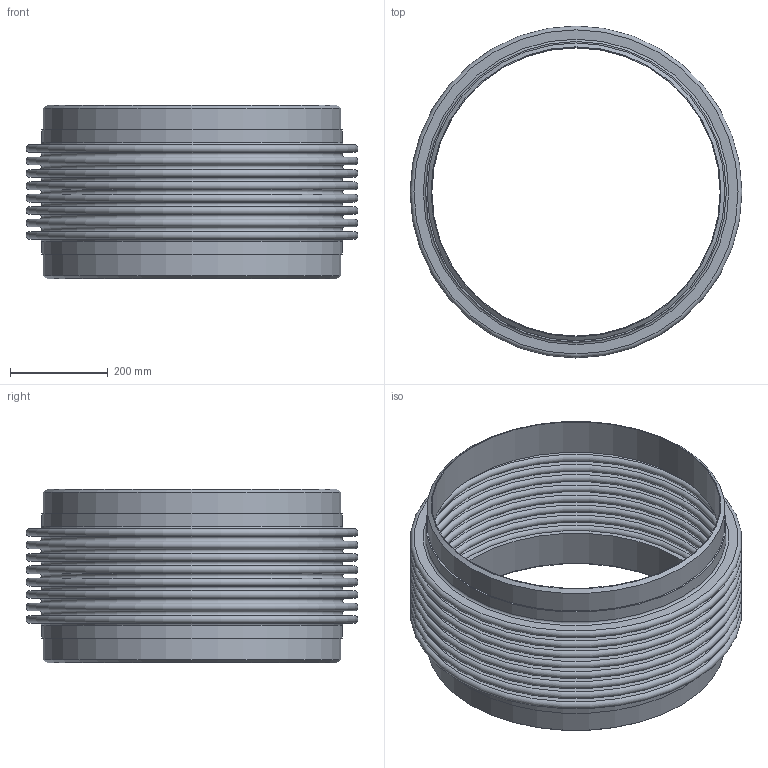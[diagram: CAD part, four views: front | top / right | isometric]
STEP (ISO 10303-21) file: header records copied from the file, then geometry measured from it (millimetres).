
FILE_DESCRIPTION(/* description */ ('EXPANSION JOINT,SINGLE, WELD ENDS,4 INCH NOMINAL'),/* implementation_level */ '2;1');
FILE_NAME(/* name */ 'US-24-300S- WELD-ENDS.stp',/* time_stamp */ '2026-07-28T11:21:13-05:00',/* author */ ('jorgef'),/* organization */ (''),/* preprocessor_version */ 'ST-DEVELOPER v20.1',/* originating_system */ 'Autodesk Inventor 2026',/* authorisation */ '');
FILE_SCHEMA (('AUTOMOTIVE_DESIGN { 1 0 10303 214 3 1 1 }'));
Length unit declared in the file: inch
Products named in the file (3): SINGLE STOCK  BELLOW WELDED ENDS  24-300 PSIG; STOCK BELLOW - US-24-8-300s; PIPE- 24 -300 PSIG
Assembly tree (3 placements, depth 2):
  SINGLE STOCK  BELLOW WELDED ENDS  24-300 PSIG
    STOCK BELLOW - US-24-8-300s
    PIPE- 24 -300 PSIG  x2
Bounding box: 679.45 x 679.45 x 355.6 mm (x, y, z)
Volume: 6806389 mm3; surface area: 3396832.2 mm2
Topology: 5 solids, 5 shells, 86 faces, 132 edges, 89 vertices
Faces by surface type: plane 42, torus 34, cylinder 8, cone 2
Full cylindrical faces by diameter (mm): 590.55 x2, 609.6 x4, 615.696 x2
Entity records: 2033 total; most frequent: DIRECTION 413, CARTESIAN_POINT 293, ORIENTED_EDGE 246, AXIS2_PLACEMENT_3D 203, EDGE_CURVE 123, EDGE_LOOP 121, CIRCLE 116, VERTEX_POINT 82
